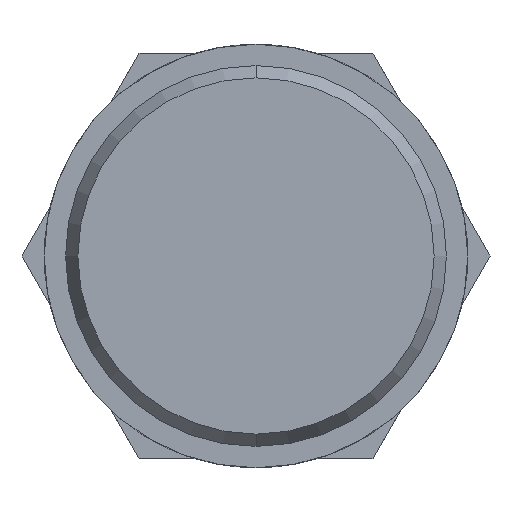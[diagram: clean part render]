
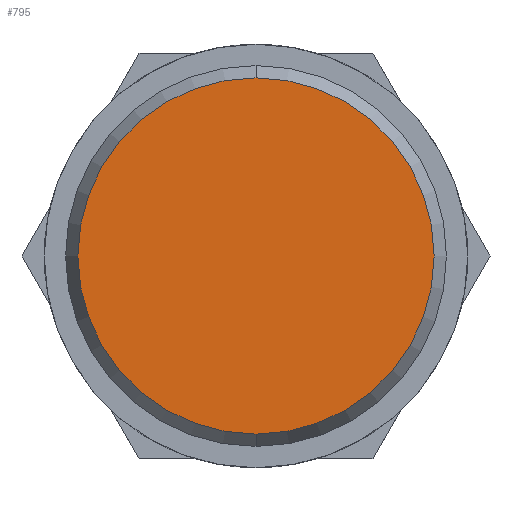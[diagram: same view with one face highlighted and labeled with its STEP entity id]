
A CAD part, left-side view. The second image highlights one B-rep face of the part: STEP entity #795.
In plain terms, the highlighted planar face has unit normal (-1, 0, 0).
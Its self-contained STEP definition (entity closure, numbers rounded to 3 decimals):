
#6 = AXIS2_PLACEMENT_3D ( 'NONE', #1032, #291, #860 ) ;
#10 = ORIENTED_EDGE ( 'NONE', *, *, #1021, .F. ) ;
#106 = CIRCLE ( 'NONE', #1039, 8.35 ) ;
#110 = EDGE_CURVE ( 'NONE', #956, #455, #380, .T. ) ;
#151 = CARTESIAN_POINT ( 'NONE',  ( 0., 0., -8.35 ) ) ;
#176 = CARTESIAN_POINT ( 'NONE',  ( 0., 0., 8.35 ) ) ;
#239 = DIRECTION ( 'NONE',  ( 0., 0., -1. ) ) ;
#291 = DIRECTION ( 'NONE',  ( -1., 0., 0. ) ) ;
#365 = DIRECTION ( 'NONE',  ( 0., 0., -1. ) ) ;
#380 = CIRCLE ( 'NONE', #680, 8.35 ) ;
#455 = VERTEX_POINT ( 'NONE', #176 ) ;
#500 = CARTESIAN_POINT ( 'NONE',  ( 0., 0., 0. ) ) ;
#556 = ORIENTED_EDGE ( 'NONE', *, *, #110, .F. ) ;
#680 = AXIS2_PLACEMENT_3D ( 'NONE', #1025, #941, #365 ) ;
#686 = FACE_OUTER_BOUND ( 'NONE', #1096, .T. ) ;
#795 = ADVANCED_FACE ( 'NONE', ( #686 ), #859, .T. ) ;
#859 = PLANE ( 'NONE',  #6 ) ;
#860 = DIRECTION ( 'NONE',  ( 0., 0., 1. ) ) ;
#941 = DIRECTION ( 'NONE',  ( 1., 0., 0. ) ) ;
#956 = VERTEX_POINT ( 'NONE', #151 ) ;
#1021 = EDGE_CURVE ( 'NONE', #455, #956, #106, .T. ) ;
#1025 = CARTESIAN_POINT ( 'NONE',  ( 0., 0., 0. ) ) ;
#1032 = CARTESIAN_POINT ( 'NONE',  ( 0., 0., 0. ) ) ;
#1039 = AXIS2_PLACEMENT_3D ( 'NONE', #500, #1047, #239 ) ;
#1047 = DIRECTION ( 'NONE',  ( 1., 0., 0. ) ) ;
#1096 = EDGE_LOOP ( 'NONE', ( #556, #10 ) ) ;
